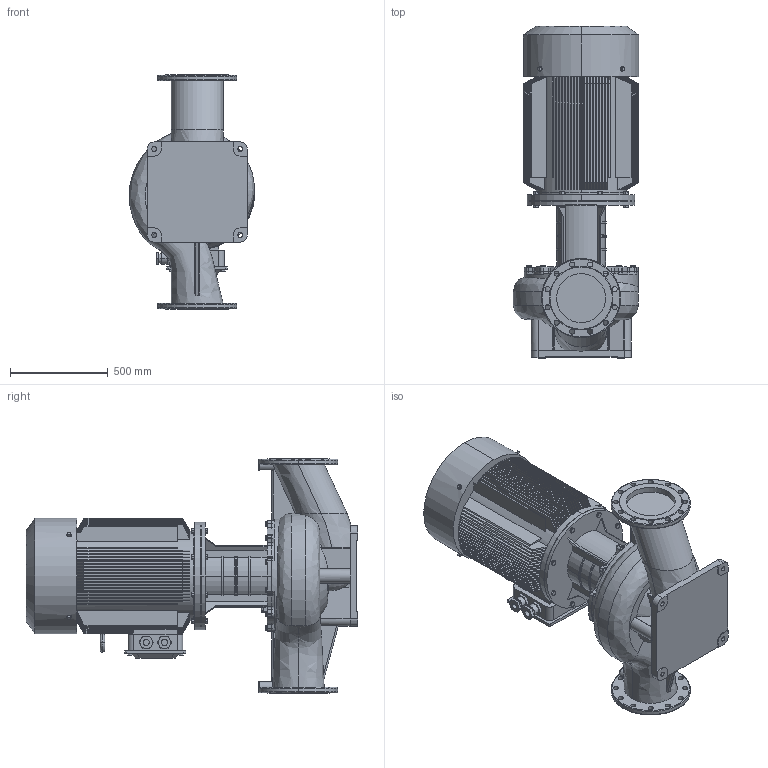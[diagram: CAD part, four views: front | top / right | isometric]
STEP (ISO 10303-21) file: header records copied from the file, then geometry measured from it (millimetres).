
FILE_DESCRIPTION (( 'STEP AP203' ), '1' );
FILE_NAME ('TD250-47G／4.STEP', '2026-09-08T00:48:00', ( '' ), ( '' ), 'SwSTEP 2.0', 'SolidWorks 2020', '' );
FILE_SCHEMA (( 'CONFIG_CONTROL_DESIGN' ));
Products named in the file (1): TD250-47Gㄞ4
Bounding box: 642.52 x 1698 x 1200 mm (x, y, z)
Volume: 372603588.3 mm3; surface area: 11373326.5 mm2
Topology: 1 solids, 23 shells, 2172 faces, 5465 edges, 3399 vertices
Faces by surface type: plane 912, cylinder 580, cone 549, torus 85, sphere 24, bspline 22
Entity records: 89136 total; most frequent: CARTESIAN_POINT 37829, ORIENTED_EDGE 10878, DIRECTION 10614, EDGE_CURVE 5439, AXIS2_PLACEMENT_3D 4192, VERTEX_POINT 3399, EDGE_LOOP 2334, LINE 2230
